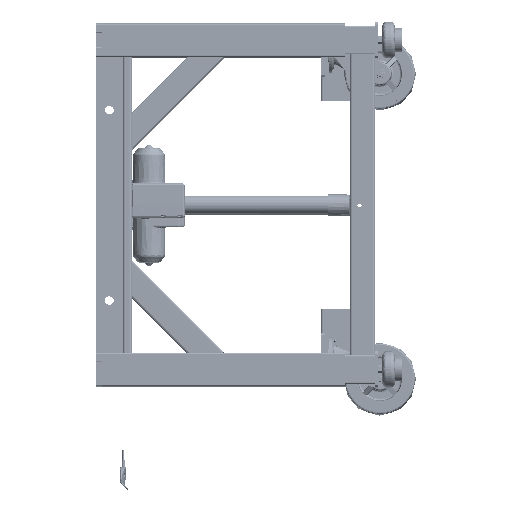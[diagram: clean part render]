
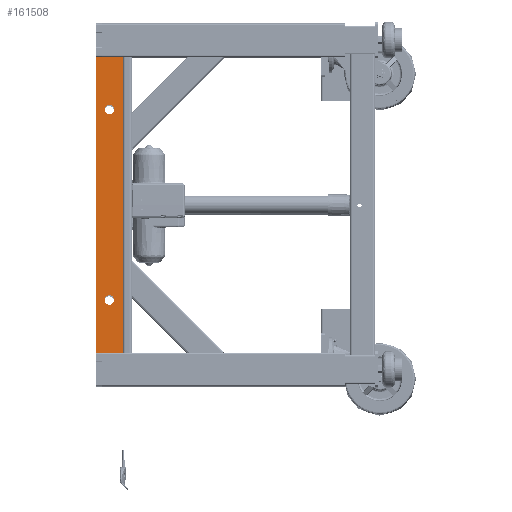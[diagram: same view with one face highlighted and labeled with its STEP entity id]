
A CAD part, top view. The second image highlights one B-rep face of the part: STEP entity #161508.
In plain terms, the highlighted planar face has unit normal (0, 0, 1).
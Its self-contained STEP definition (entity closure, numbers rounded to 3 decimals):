
#542 = ORIENTED_EDGE ( 'NONE', *, *, #80712, .T. ) ;
#2014 = VECTOR ( 'NONE', #135285, 1000. ) ;
#4783 = VERTEX_POINT ( 'NONE', #121859 ) ;
#5213 = VERTEX_POINT ( 'NONE', #51854 ) ;
#5688 = DIRECTION ( 'NONE',  ( 0., 0., 1. ) ) ;
#5720 = EDGE_CURVE ( 'NONE', #214832, #55021, #20072, .T. ) ;
#6157 = ORIENTED_EDGE ( 'NONE', *, *, #152456, .T. ) ;
#14476 = VECTOR ( 'NONE', #263059, 1000. ) ;
#16821 = ORIENTED_EDGE ( 'NONE', *, *, #5720, .T. ) ;
#20072 = LINE ( 'NONE', #90909, #207370 ) ;
#23753 = VERTEX_POINT ( 'NONE', #214109 ) ;
#26638 = VECTOR ( 'NONE', #151592, 1000. ) ;
#26681 = ORIENTED_EDGE ( 'NONE', *, *, #311182, .T. ) ;
#27850 = CARTESIAN_POINT ( 'NONE',  ( 186.597, 748.35, 1934.284 ) ) ;
#28144 = CARTESIAN_POINT ( 'NONE',  ( 165.747, 761.35, 1934.284 ) ) ;
#33405 = ORIENTED_EDGE ( 'NONE', *, *, #44389, .T. ) ;
#35822 = CARTESIAN_POINT ( 'NONE',  ( 155.747, 1161.35, 1934.284 ) ) ;
#39008 = EDGE_LOOP ( 'NONE', ( #286543 ) ) ;
#39048 = DIRECTION ( 'NONE',  ( 0., 1., 0. ) ) ;
#41840 = CARTESIAN_POINT ( 'NONE',  ( 183.597, 724.35, 1934.284 ) ) ;
#41931 = VECTOR ( 'NONE', #39048, 1000. ) ;
#42787 = VECTOR ( 'NONE', #121502, 1000. ) ;
#44389 = EDGE_CURVE ( 'NONE', #65369, #297533, #214680, .T. ) ;
#46802 = CARTESIAN_POINT ( 'NONE',  ( 127.897, 650.35, 1934.284 ) ) ;
#49827 = CARTESIAN_POINT ( 'NONE',  ( 186.597, 1174.35, 1934.284 ) ) ;
#51854 = CARTESIAN_POINT ( 'NONE',  ( 127.897, 650.35, 1934.284 ) ) ;
#51990 = CARTESIAN_POINT ( 'NONE',  ( 127.897, 650.35, 1934.284 ) ) ;
#52007 = DIRECTION ( 'NONE',  ( -1., 0., 0. ) ) ;
#53767 = AXIS2_PLACEMENT_3D ( 'NONE', #290485, #193831, #266364 ) ;
#54280 = VECTOR ( 'NONE', #318032, 1000. ) ;
#55021 = VERTEX_POINT ( 'NONE', #118475 ) ;
#55604 = CARTESIAN_POINT ( 'NONE',  ( 155.747, 761.35, 1934.284 ) ) ;
#57212 = DIRECTION ( 'NONE',  ( 1., 0., 0. ) ) ;
#65369 = VERTEX_POINT ( 'NONE', #202306 ) ;
#65414 = FACE_BOUND ( 'NONE', #251983, .T. ) ;
#66039 = CARTESIAN_POINT ( 'NONE',  ( 186.597, 1174.35, 1934.284 ) ) ;
#66457 = EDGE_CURVE ( 'NONE', #91126, #74129, #301847, .T. ) ;
#70143 = EDGE_CURVE ( 'NONE', #74129, #205891, #148487, .T. ) ;
#74129 = VERTEX_POINT ( 'NONE', #82258 ) ;
#75241 = ORIENTED_EDGE ( 'NONE', *, *, #159153, .T. ) ;
#75437 = ORIENTED_EDGE ( 'NONE', *, *, #173719, .T. ) ;
#79053 = VECTOR ( 'NONE', #149608, 1000. ) ;
#80712 = EDGE_CURVE ( 'NONE', #91126, #4783, #199794, .T. ) ;
#81189 = VERTEX_POINT ( 'NONE', #28144 ) ;
#82258 = CARTESIAN_POINT ( 'NONE',  ( 186.597, 724.35, 1934.284 ) ) ;
#82737 = VERTEX_POINT ( 'NONE', #180738 ) ;
#90909 = CARTESIAN_POINT ( 'NONE',  ( 127.897, 1272.35, 1934.284 ) ) ;
#90986 = CARTESIAN_POINT ( 'NONE',  ( 183.597, 650.35, 1934.284 ) ) ;
#91126 = VERTEX_POINT ( 'NONE', #182386 ) ;
#97745 = VECTOR ( 'NONE', #212351, 1000. ) ;
#101374 = ORIENTED_EDGE ( 'NONE', *, *, #245723, .T. ) ;
#102476 = ORIENTED_EDGE ( 'NONE', *, *, #249255, .F. ) ;
#104213 = EDGE_CURVE ( 'NONE', #82737, #82737, #279283, .T. ) ;
#110428 = CIRCLE ( 'NONE', #115467, 10. ) ;
#111073 = CARTESIAN_POINT ( 'NONE',  ( 183.597, 650.35, 1934.284 ) ) ;
#114424 = LINE ( 'NONE', #46802, #97745 ) ;
#115138 = LINE ( 'NONE', #90986, #14476 ) ;
#115467 = AXIS2_PLACEMENT_3D ( 'NONE', #55604, #5688, #57212 ) ;
#116751 = CARTESIAN_POINT ( 'NONE',  ( 186.597, 1198.35, 1934.284 ) ) ;
#118475 = CARTESIAN_POINT ( 'NONE',  ( 127.897, 1272.35, 1934.284 ) ) ;
#121502 = DIRECTION ( 'NONE',  ( -1., 0., 0. ) ) ;
#121859 = CARTESIAN_POINT ( 'NONE',  ( 183.597, 748.35, 1934.284 ) ) ;
#127588 = LINE ( 'NONE', #51990, #26638 ) ;
#135285 = DIRECTION ( 'NONE',  ( -1., 0., 0. ) ) ;
#135355 = AXIS2_PLACEMENT_3D ( 'NONE', #35822, #227192, #151614 ) ;
#140562 = ORIENTED_EDGE ( 'NONE', *, *, #70143, .F. ) ;
#148487 = LINE ( 'NONE', #172525, #230282 ) ;
#149608 = DIRECTION ( 'NONE',  ( 0., 1., 0. ) ) ;
#151592 = DIRECTION ( 'NONE',  ( 0., -1., 0. ) ) ;
#151614 = DIRECTION ( 'NONE',  ( -1., 0., 0. ) ) ;
#152456 = EDGE_CURVE ( 'NONE', #257251, #205891, #270272, .T. ) ;
#159153 = EDGE_CURVE ( 'NONE', #297533, #214832, #233594, .T. ) ;
#161508 = ADVANCED_FACE ( 'NONE', ( #65414, #163407, #272675 ), #242126, .T. ) ;
#163407 = FACE_BOUND ( 'NONE', #39008, .T. ) ;
#166506 = VERTEX_POINT ( 'NONE', #49827 ) ;
#172525 = CARTESIAN_POINT ( 'NONE',  ( 186.597, 724.35, 1934.284 ) ) ;
#173719 = EDGE_CURVE ( 'NONE', #4783, #23753, #115138, .T. ) ;
#177784 = CARTESIAN_POINT ( 'NONE',  ( 183.597, 1272.35, 1934.284 ) ) ;
#177879 = DIRECTION ( 'NONE',  ( 0., -1., 0. ) ) ;
#180738 = CARTESIAN_POINT ( 'NONE',  ( 145.747, 1161.35, 1934.284 ) ) ;
#182386 = CARTESIAN_POINT ( 'NONE',  ( 186.597, 748.35, 1934.284 ) ) ;
#185808 = VECTOR ( 'NONE', #52007, 1000. ) ;
#187303 = CARTESIAN_POINT ( 'NONE',  ( 183.597, 1198.35, 1934.284 ) ) ;
#189117 = ORIENTED_EDGE ( 'NONE', *, *, #240225, .F. ) ;
#190522 = EDGE_CURVE ( 'NONE', #81189, #81189, #110428, .T. ) ;
#193831 = DIRECTION ( 'NONE',  ( 0., 0., 1. ) ) ;
#199794 = LINE ( 'NONE', #27850, #185808 ) ;
#202306 = CARTESIAN_POINT ( 'NONE',  ( 186.597, 1198.35, 1934.284 ) ) ;
#205891 = VERTEX_POINT ( 'NONE', #41840 ) ;
#207370 = VECTOR ( 'NONE', #293495, 1000. ) ;
#212351 = DIRECTION ( 'NONE',  ( 1., 0., 0. ) ) ;
#214109 = CARTESIAN_POINT ( 'NONE',  ( 183.597, 1174.35, 1934.284 ) ) ;
#214680 = LINE ( 'NONE', #116751, #42787 ) ;
#214832 = VERTEX_POINT ( 'NONE', #177784 ) ;
#227192 = DIRECTION ( 'NONE',  ( 0., 0., 1. ) ) ;
#227780 = CARTESIAN_POINT ( 'NONE',  ( 186.597, 724.35, 1934.284 ) ) ;
#230282 = VECTOR ( 'NONE', #270747, 1000. ) ;
#233149 = EDGE_LOOP ( 'NONE', ( #16821, #101374, #26681, #6157, #140562, #269655, #542, #75437, #102476, #189117, #33405, #75241 ) ) ;
#233594 = LINE ( 'NONE', #259355, #41931 ) ;
#238093 = VECTOR ( 'NONE', #177879, 1000. ) ;
#239526 = LINE ( 'NONE', #66039, #2014 ) ;
#240225 = EDGE_CURVE ( 'NONE', #65369, #166506, #268258, .T. ) ;
#242126 = PLANE ( 'NONE',  #53767 ) ;
#245723 = EDGE_CURVE ( 'NONE', #55021, #5213, #127588, .T. ) ;
#249255 = EDGE_CURVE ( 'NONE', #166506, #23753, #239526, .T. ) ;
#250843 = CARTESIAN_POINT ( 'NONE',  ( 183.597, 650.35, 1934.284 ) ) ;
#251983 = EDGE_LOOP ( 'NONE', ( #308272 ) ) ;
#257251 = VERTEX_POINT ( 'NONE', #111073 ) ;
#259355 = CARTESIAN_POINT ( 'NONE',  ( 183.597, 650.35, 1934.284 ) ) ;
#263059 = DIRECTION ( 'NONE',  ( 0., 1., 0. ) ) ;
#265064 = CARTESIAN_POINT ( 'NONE',  ( 186.597, 1198.35, 1934.284 ) ) ;
#266364 = DIRECTION ( 'NONE',  ( 1., 0., 0. ) ) ;
#268258 = LINE ( 'NONE', #265064, #54280 ) ;
#269655 = ORIENTED_EDGE ( 'NONE', *, *, #66457, .F. ) ;
#270272 = LINE ( 'NONE', #250843, #79053 ) ;
#270747 = DIRECTION ( 'NONE',  ( -1., 0., 0. ) ) ;
#272675 = FACE_OUTER_BOUND ( 'NONE', #233149, .T. ) ;
#279283 = CIRCLE ( 'NONE', #135355, 10. ) ;
#286543 = ORIENTED_EDGE ( 'NONE', *, *, #104213, .F. ) ;
#290485 = CARTESIAN_POINT ( 'NONE',  ( 155.747, 961.35, 1934.284 ) ) ;
#293495 = DIRECTION ( 'NONE',  ( -1., 0., 0. ) ) ;
#297533 = VERTEX_POINT ( 'NONE', #187303 ) ;
#301847 = LINE ( 'NONE', #227780, #238093 ) ;
#308272 = ORIENTED_EDGE ( 'NONE', *, *, #190522, .F. ) ;
#311182 = EDGE_CURVE ( 'NONE', #5213, #257251, #114424, .T. ) ;
#318032 = DIRECTION ( 'NONE',  ( 0., -1., 0. ) ) ;
